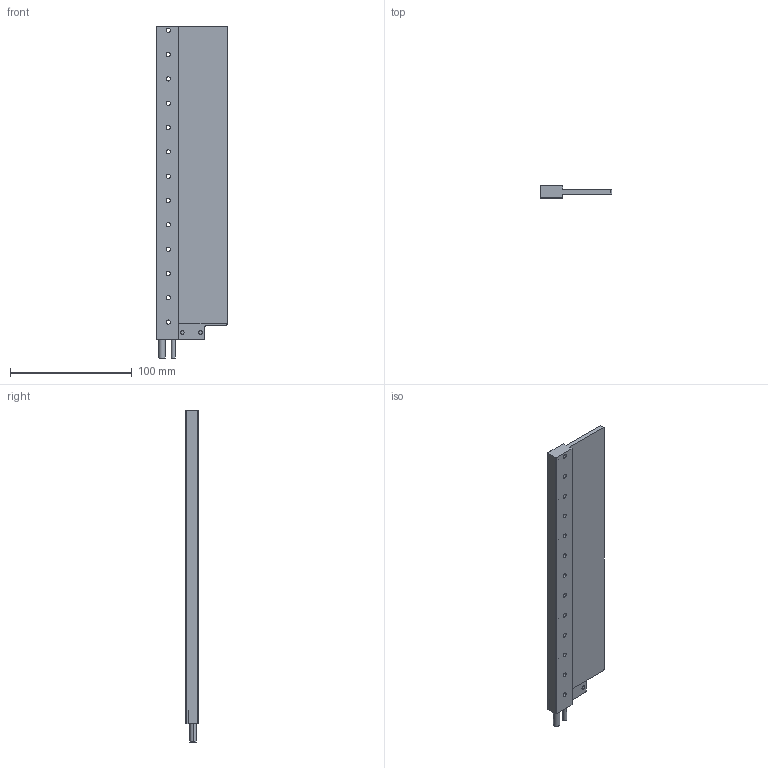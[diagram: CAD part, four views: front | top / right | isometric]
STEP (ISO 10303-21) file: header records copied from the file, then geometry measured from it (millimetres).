
FILE_DESCRIPTION (( 'STEP AP203' ), '1' );
FILE_NAME ('IL12-59 assembly 3D.STEP', '2022-10-28T06:09:27', ( '' ), ( '' ), 'SwSTEP 2.0', 'SolidWorks 2021', '' );
FILE_SCHEMA (( 'CONFIG_CONTROL_DESIGN' ));
Length unit declared in the file: millimetre
Products named in the file (1): IL12-59 assembly 3D
Bounding box: 59.1 x 10 x 273 mm (x, y, z)
Volume: 84715.8 mm3; surface area: 39330 mm2
Topology: 1 solids, 13 shells, 242 faces, 603 edges, 385 vertices
Faces by surface type: cylinder 116, plane 96, cone 30
Entity records: 7290 total; most frequent: DIRECTION 1323, CARTESIAN_POINT 1259, ORIENTED_EDGE 1178, EDGE_CURVE 589, AXIS2_PLACEMENT_3D 505, VERTEX_POINT 385, LINE 313, VECTOR 313
